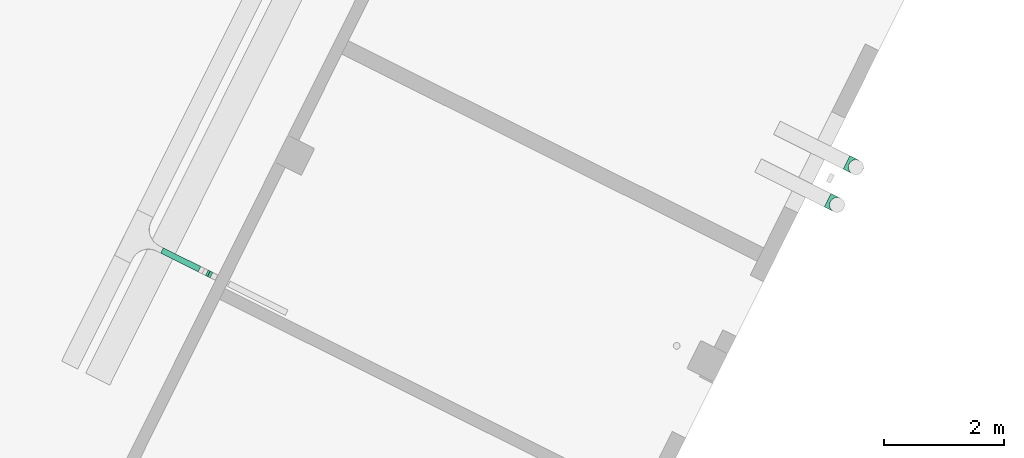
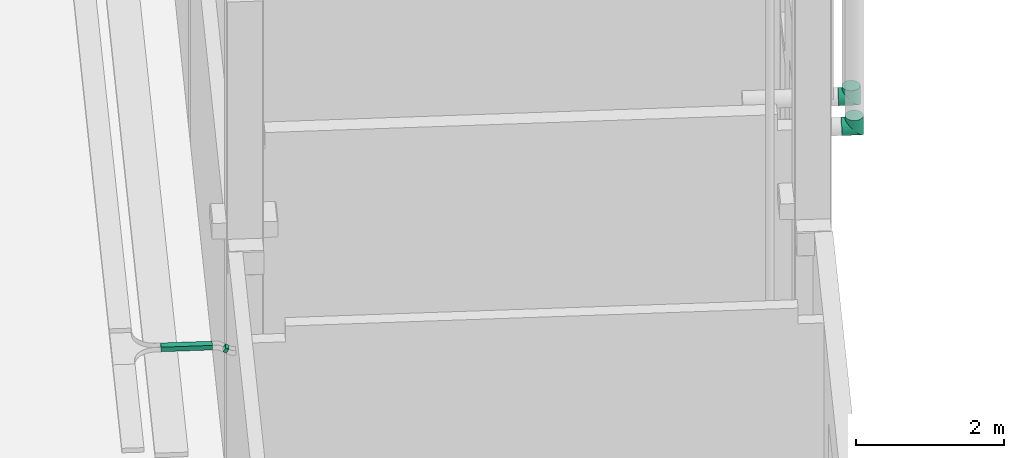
# One storey, part 70 of 91: 2 flow fittings, 2 flow segments.
"""IFC2X3 building model written with IfcOpenShell, lengths in metres."""

from ifc_helpers import new_model, entity, si_unit, converted_unit, derived_unit, direction, frame, frame_2d, origin, place, context, subcontext, project, spatial, rectangle, extrude, faceted_brep, source, transform, mapped, type_object, type_shapes, element, save


model = new_model("IFC2X3")

# Units and contexts
model_context = context("Model", 3, precision=1e-05, world=origin(), true_north=direction((0.894925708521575, 0.446215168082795)))
context_of_model = context(None, 3, precision=1e-05, world=origin(), true_north=direction((0.894925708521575, 0.446215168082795)))
body_context = subcontext(model_context, "Body", "Model", "MODEL_VIEW")
ifc_project = project(units=[si_unit("LENGTHUNIT", "METRE"), si_unit("AREAUNIT", "SQUARE_METRE"), si_unit("VOLUMEUNIT", "CUBIC_METRE"), converted_unit("PLANEANGLEUNIT", "DEGREE", entity("IfcRatioMeasure", 0.0174532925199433), si_unit("PLANEANGLEUNIT", "RADIAN"), dimensions=[0, 0, 0, 0, 0, 0, 0]), si_unit("MASSUNIT", "GRAM", prefix="KILO"), si_unit("TIMEUNIT", "SECOND"), si_unit("FREQUENCYUNIT", "HERTZ"), si_unit("THERMODYNAMICTEMPERATUREUNIT", "DEGREE_CELSIUS"), derived_unit("THERMALTRANSMITTANCEUNIT", [(si_unit("MASSUNIT", "GRAM", prefix="KILO"), 1), (si_unit("THERMODYNAMICTEMPERATUREUNIT", "KELVIN"), -1), (si_unit("TIMEUNIT", "SECOND"), -3)]), derived_unit("VOLUMETRICFLOWRATEUNIT", [(si_unit("LENGTHUNIT", "METRE"), 3), (si_unit("TIMEUNIT", "SECOND"), -1)]), si_unit("ELECTRICCURRENTUNIT", "AMPERE"), si_unit("ELECTRICVOLTAGEUNIT", "VOLT"), si_unit("POWERUNIT", "WATT"), si_unit("FORCEUNIT", "NEWTON", prefix="KILO"), si_unit("ILLUMINANCEUNIT", "LUX"), si_unit("LUMINOUSFLUXUNIT", "LUMEN"), si_unit("LUMINOUSINTENSITYUNIT", "CANDELA"), si_unit("PRESSUREUNIT", "PASCAL")], contexts=[model_context, context_of_model])

# Site, building, storey
site_placement = place(None, frame((218.228324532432, 584.720189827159, 0.0), z_axis=(0.0, 0.0, 1.0), x_axis=(0.446215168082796, 0.894925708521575, 0.0)))
site = spatial("IfcSite", under=ifc_project, at=site_placement, Name="Default", CompositionType="ELEMENT")
building_placement = place(site_placement, origin())
building = spatial("IfcBuilding", under=site, at=building_placement, CompositionType="ELEMENT")
storey_placement = place(building_placement, origin())
storey = spatial("IfcBuildingStorey", under=building, at=storey_placement, Name="0 - Piano Terra", CompositionType="ELEMENT", Elevation=0.0)

# Flow fittings
duct_fitting_type = type_object("IfcDuctFittingType", Name="Standard", PredefinedType="NOTDEFINED")
shared_shape = source(origin(), body_context, "Body", "Brep", [
    faceted_brep([(-0.0883883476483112, 0.175297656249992, -0.0883883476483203), (-0.108253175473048, 0.175297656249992, -0.0625000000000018), (-0.120740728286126, 0.175297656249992, -0.0323523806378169), (-0.124999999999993, 0.175297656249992, 0.0), (-0.120740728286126, 0.175297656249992, 0.0323523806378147), (-0.108253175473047, 0.175297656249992, 0.0624999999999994), (-0.0883883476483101, 0.175297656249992, 0.0883883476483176), (-0.0624999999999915, 0.175297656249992, 0.108253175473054), (-0.0323523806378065, 0.175297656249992, 0.120740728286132), (0.0, 0.175297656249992, 0.124999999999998), (0.0323523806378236, 0.175297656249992, 0.120740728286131), (0.0625000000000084, 0.175297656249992, 0.108253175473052), (0.0883883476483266, 0.175297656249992, 0.0883883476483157), (0.108253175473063, 0.175297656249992, 0.062499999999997), (0.120740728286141, 0.175297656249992, 0.032352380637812), (0.125000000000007, 0.175297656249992, 0.0), (0.120740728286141, 0.175297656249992, -0.0323523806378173), (0.108253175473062, 0.175297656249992, -0.0625000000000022), (0.0883883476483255, 0.175297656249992, -0.0883883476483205), (0.0625000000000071, 0.175297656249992, -0.108253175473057), (0.0323523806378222, 0.175297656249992, -0.120740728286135), (0.0, 0.175297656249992, -0.125000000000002), (-0.032352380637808, 0.175297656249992, -0.120740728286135), (-0.0624999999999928, 0.175297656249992, -0.108253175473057), (0.120740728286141, 0.125297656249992, 0.032352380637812), (0.12074072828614, -0.120740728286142, 0.0323523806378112), (0.125000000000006, -0.125000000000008, 0.0), (0.125000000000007, 0.125297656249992, 0.0), (0.108253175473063, 0.125297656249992, 0.062499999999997), (0.108253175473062, -0.108253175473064, 0.0624999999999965), (0.0883883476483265, 0.125297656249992, 0.0883883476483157), (0.0625000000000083, 0.125297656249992, 0.108253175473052), (0.0625000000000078, -0.0625000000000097, 0.108253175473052), (0.0883883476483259, -0.0883883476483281, 0.0883883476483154), (0.0323523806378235, 0.125297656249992, 0.120740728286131), (0.0323523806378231, -0.032352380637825, 0.120740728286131), (0.0, 0.125297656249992, 0.124999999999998), (0.0, 0.0, 0.124999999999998), (-0.0624999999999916, 0.125297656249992, 0.108253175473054), (-0.0624999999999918, 0.0624999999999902, 0.108253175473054), (-0.0323523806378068, 0.0323523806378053, 0.120740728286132), (-0.0323523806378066, 0.125297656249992, 0.120740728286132), (-0.0883883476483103, 0.125297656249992, 0.0883883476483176), (-0.0883883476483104, 0.0883883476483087, 0.0883883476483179), (-0.108253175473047, 0.125297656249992, 0.0624999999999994), (-0.120740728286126, 0.125297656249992, 0.0323523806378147), (-0.120740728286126, 0.120740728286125, 0.0323523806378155), (-0.108253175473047, 0.108253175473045, 0.0624999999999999), (-0.124999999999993, 0.125297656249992, 0.0), (-0.124999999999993, 0.124999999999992, 0.0), (-0.120740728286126, 0.125297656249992, -0.0323523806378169), (-0.120740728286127, 0.120740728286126, -0.0323523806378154), (-0.108253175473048, 0.125297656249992, -0.0625000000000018), (-0.108253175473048, 0.108253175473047, -0.0625000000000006), (-0.0883883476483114, 0.125297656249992, -0.0883883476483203), (-0.062499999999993, 0.125297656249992, -0.108253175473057), (-0.0624999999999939, 0.0624999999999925, -0.108253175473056), (-0.088388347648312, 0.0883883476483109, -0.0883883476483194), (-0.0323523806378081, 0.125297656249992, -0.120740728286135), (-0.0323523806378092, 0.0323523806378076, -0.120740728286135), (0.0, 0.125297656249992, -0.125000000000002), (0.0, 0.0, -0.125000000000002), (0.0625000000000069, 0.125297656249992, -0.108253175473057), (0.0883883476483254, 0.125297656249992, -0.0883883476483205), (0.0883883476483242, -0.0883883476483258, -0.0883883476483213), (0.0625000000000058, -0.0625000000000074, -0.108253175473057), (0.0323523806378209, -0.0323523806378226, -0.120740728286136), (0.0323523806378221, 0.125297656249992, -0.120740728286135), (0.120740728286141, 0.125297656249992, -0.0323523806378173), (0.12074072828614, -0.120740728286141, -0.0323523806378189), (0.108253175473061, -0.108253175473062, -0.0625000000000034), (0.108253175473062, 0.125297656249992, -0.0625000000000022), (-0.125297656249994, -0.125000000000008, 0.0), (-0.125297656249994, -0.120740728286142, 0.032352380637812), (-0.175297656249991, -0.120740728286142, 0.032352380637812), (-0.175297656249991, -0.125000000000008, 0.0), (-0.125297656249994, -0.108253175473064, 0.062499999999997), (-0.175297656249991, -0.108253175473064, 0.062499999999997), (-0.125297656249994, -0.0883883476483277, 0.0883883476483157), (-0.125297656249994, -0.0625000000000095, 0.108253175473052), (-0.175297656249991, -0.0625000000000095, 0.108253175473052), (-0.175297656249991, -0.0883883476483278, 0.0883883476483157), (-0.125297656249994, -0.0323523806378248, 0.120740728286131), (-0.175297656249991, -0.0323523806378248, 0.120740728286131), (-0.125297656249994, 0.0, 0.124999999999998), (-0.175297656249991, 0.0, 0.124999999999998), (-0.125297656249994, 0.0883883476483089, 0.0883883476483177), (-0.175297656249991, 0.088388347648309, 0.0883883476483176), (-0.175297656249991, 0.0624999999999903, 0.108253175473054), (-0.125297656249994, 0.0624999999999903, 0.108253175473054), (-0.175297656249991, 0.0323523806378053, 0.120740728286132), (-0.125297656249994, 0.0323523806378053, 0.120740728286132), (-0.125297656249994, 0.124999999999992, 0.0), (-0.175297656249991, 0.124999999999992, 0.0), (-0.175297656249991, 0.120740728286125, 0.0323523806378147), (-0.125297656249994, 0.120740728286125, 0.0323523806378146), (-0.175297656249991, 0.108253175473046, 0.0624999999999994), (-0.125297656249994, 0.108253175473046, 0.0624999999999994), (-0.125297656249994, 0.0883883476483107, -0.0883883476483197), (-0.175297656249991, 0.0883883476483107, -0.0883883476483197), (-0.175297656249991, 0.108253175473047, -0.0625000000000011), (-0.125297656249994, 0.108253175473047, -0.0625000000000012), (-0.175297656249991, 0.120740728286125, -0.0323523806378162), (-0.125297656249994, 0.120740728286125, -0.0323523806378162), (-0.125297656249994, 0.0323523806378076, -0.120740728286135), (-0.125297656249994, 0.0, -0.125000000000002), (-0.175297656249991, 0.0, -0.125000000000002), (-0.175297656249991, 0.0323523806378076, -0.120740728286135), (-0.175297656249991, 0.0624999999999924, -0.108253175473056), (-0.125297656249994, 0.0624999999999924, -0.108253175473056), (-0.125297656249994, -0.0625000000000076, -0.108253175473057), (-0.175297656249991, -0.0625000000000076, -0.108253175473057), (-0.175297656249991, -0.0323523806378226, -0.120740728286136), (-0.125297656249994, -0.0323523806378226, -0.120740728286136), (-0.125297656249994, -0.0883883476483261, -0.088388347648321), (-0.175297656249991, -0.0883883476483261, -0.088388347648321), (-0.125297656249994, -0.120740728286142, -0.032352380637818), (-0.175297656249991, -0.120740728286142, -0.032352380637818), (-0.175297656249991, -0.108253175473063, -0.0625000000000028), (-0.125297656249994, -0.108253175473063, -0.0625000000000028)], [[[0, 1, 2, 3, 4, 5, 6, 7, 8, 9, 10, 11, 12, 13, 14, 15, 16, 17, 18, 19, 20, 21, 22, 23]], [[14, 24, 25, 26, 27, 15]], [[13, 28, 29, 25, 24, 14]], [[30, 12, 11, 31, 32, 33]], [[13, 12, 30, 33, 29, 28]], [[31, 11, 10, 34, 35, 32]], [[34, 10, 9, 36, 37, 35]], [[7, 38, 39, 40, 41, 8]], [[6, 42, 43, 39, 38, 7]], [[44, 5, 4, 45, 46, 47]], [[6, 5, 44, 47, 43, 42]], [[45, 4, 3, 48, 49, 46]], [[41, 40, 37, 36, 9, 8]], [[2, 50, 51, 49, 48, 3]], [[1, 52, 53, 51, 50, 2]], [[54, 0, 23, 55, 56, 57]], [[1, 0, 54, 57, 53, 52]], [[55, 23, 22, 58, 59, 56]], [[58, 22, 21, 60, 61, 59]], [[62, 19, 18, 63, 64, 65]], [[20, 19, 62, 65, 66, 67]], [[68, 69, 70, 71, 17, 16]], [[17, 71, 70, 64, 63, 18]], [[15, 27, 26, 69, 68, 16]], [[20, 67, 66, 61, 60, 21]], [[72, 26, 25, 73, 74, 75]], [[29, 76, 77, 74, 73, 25]], [[78, 33, 32, 79, 80, 81]], [[29, 33, 78, 81, 77, 76]], [[79, 32, 35, 82, 83, 80]], [[37, 84, 85, 83, 82, 35]], [[39, 43, 86, 87, 88, 89]], [[40, 39, 89, 88, 90, 91]], [[46, 49, 92, 93, 94, 95]], [[47, 46, 95, 94, 96, 97]], [[43, 47, 97, 96, 87, 86]], [[40, 91, 90, 85, 84, 37]], [[53, 57, 98, 99, 100, 101]], [[51, 53, 101, 100, 102, 103]], [[104, 59, 61, 105, 106, 107]], [[56, 59, 104, 107, 108, 109]], [[57, 56, 109, 108, 99, 98]], [[49, 51, 103, 102, 93, 92]], [[65, 110, 111, 112, 113, 66]], [[64, 114, 115, 111, 110, 65]], [[116, 117, 118, 119, 70, 69]], [[64, 70, 119, 118, 115, 114]], [[72, 75, 117, 116, 69, 26]], [[113, 112, 106, 105, 61, 66]], [[106, 112, 111, 115, 118, 117, 75, 74, 77, 81, 80, 83, 85, 90, 88, 87, 96, 94, 93, 102, 100, 99, 108, 107]]]),
])
type_shapes(duct_fitting_type, [shared_shape])
for number, where, z_axis, x_axis, name in (
    (1, (-48.8369662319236, -13.728622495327, 3.05000000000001), (-1.0, 0.0, 0.0), (0.0, -1.0, 0.0), "M_Gomito ad angolo circolare - DTL:Standard"),
    (2, (-49.5416952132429, -13.728622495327, 3.05000000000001), (-1.0, 0.0, 0.0), (0.0, -1.0, 0.0), "M_Gomito ad angolo circolare - DTL:Standard"),
):
    element("IfcFlowFitting", number, at=place(storey_placement, frame(where, z_axis=z_axis, x_axis=x_axis)), inside=storey, type_object=duct_fitting_type, Name=name, ObjectType="Standard", context=body_context, shape_type="MappedRepresentation", body=[
        mapped(shared_shape, transform((0.0, 0.0, 0.0), scale=1.0)),
    ])

# Flow segments
cable_carrier_segment_type = type_object("IfcCableCarrierSegmentType", Name="Passerella con raccordi:Passerella canale", PredefinedType="NOTDEFINED")
flow_segment_1_placement = place(storey_placement, frame((-55.3037571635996, -4.67437100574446, 3.7625)))
element("IfcFlowSegment", 3, at=flow_segment_1_placement, inside=storey, type_object=cable_carrier_segment_type, Name="Passerella con raccordi:Passerella canale", ObjectType="Passerella con raccordi:Passerella canale", context=body_context, shape_type="SweptSolid", body=[
    extrude(rectangle(XDim=0.698292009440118, YDim=0.0999999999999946, at=frame_2d((5.55111512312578e-16, 0.0), x_axis=(1.0, 0.0))), frame((0.0499999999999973, 0.34914600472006, 0.0), z_axis=(0.0, 0.0, 1.0), x_axis=(0.0, -1.0, 0.0)), (0.0, 0.0, 1.0), 0.0750000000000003),
])
flow_segment_2_placement = place(storey_placement, frame((-55.3037571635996, -4.89905019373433, 3.69822448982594)))
element("IfcFlowSegment", 4, at=flow_segment_2_placement, inside=storey, type_object=cable_carrier_segment_type, Name="Passerella con raccordi:Passerella canale", ObjectType="Passerella con raccordi:Passerella canale", context=body_context, shape_type="SweptSolid", body=[
    extrude(rectangle(XDim=0.0749999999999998, YDim=0.0527002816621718, at=frame_2d((0.0, 0.0), x_axis=(0.0, 1.0))), frame((0.0, 0.0415698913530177, 0.0456510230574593), z_axis=(1.0, 0.0, 0.0), x_axis=(0.0, 0.866025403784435, 0.500000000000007)), (0.0, 0.0, 1.0), 0.0999999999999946),
])

save(model, "model.ifc")
